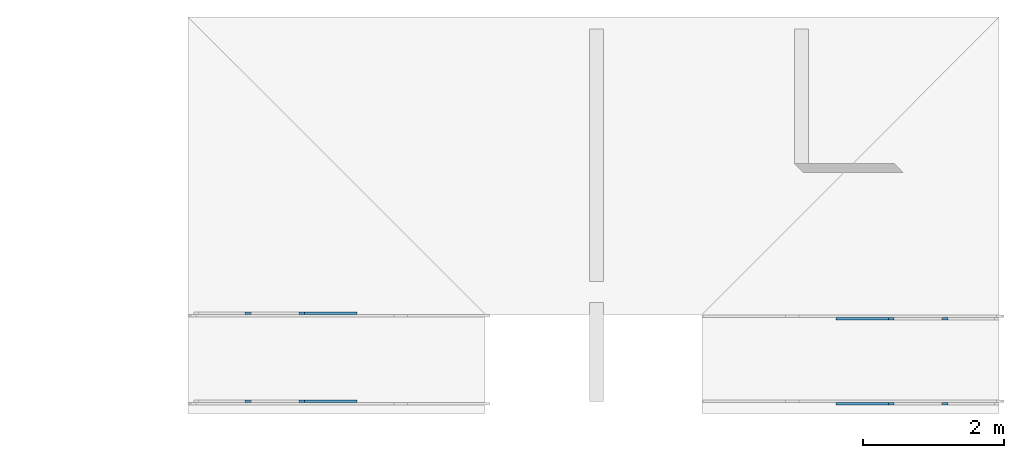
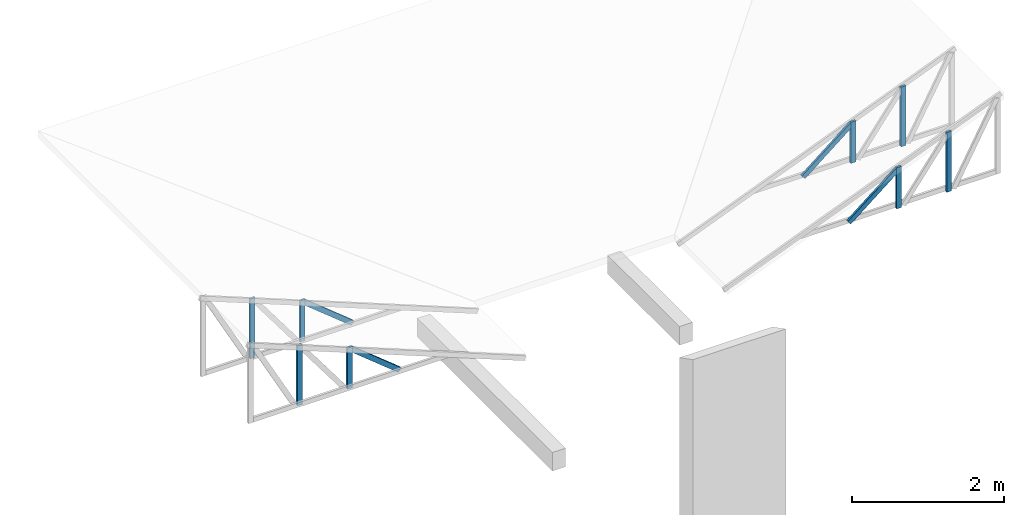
# One storey, part 3 of 4: 12 members, 4 elements without a shape of their own.
"""IFC4X3_ADD2 building model written with IfcOpenShell, lengths in millimetres."""

import ifcopenshell
import ifcopenshell.guid

model = None  # the IFC model being written
_history = None  # IfcOwnerHistory: only IFC2X3 demands one
_inside = {}  # id of a spatial element -> (the spatial element, [elements in it])
_under = {}  # id of a project, library or spatial element -> (it, [spatial elements below it])
_declared = {}  # id of a project -> (the project, [libraries it declares])
_typed = {}  # id of a type object -> (the type object, [elements of that type])
_made_of = {}  # id of a material, layer set ... -> (it, [elements and type objects made of it])


def new_model(schema):
    """Start an empty IFC model of exactly this schema.

    Asked for "IFC4X3", IfcOpenShell would pick the latest addendum, in which some entities
    have other attributes; the version numbers below select the first issue.
    IFC2X3 requires an IfcOwnerHistory on every rooted entity: one is made here for all.
    """
    global model, _history
    if schema == "IFC4X3":
        model = ifcopenshell.file(schema_version=(4, 3, 0, 0))
    else:
        model = ifcopenshell.file(schema=schema)
    _inside.clear()
    _under.clear()
    _declared.clear()
    _typed.clear()
    _made_of.clear()
    _history = None
    if model.schema == "IFC2X3":
        org = make("IfcOrganization", Name="unknown")
        user = make(
            "IfcPersonAndOrganization",
            ThePerson=make("IfcPerson", FamilyName="unknown"),
            TheOrganization=org,
        )
        app = make(
            "IfcApplication",
            ApplicationDeveloper=org,
            Version="unknown",
            ApplicationFullName="unknown",
            ApplicationIdentifier="unknown",
        )
        _history = make(
            "IfcOwnerHistory",
            OwningUser=user,
            OwningApplication=app,
            ChangeAction="ADDED",
            CreationDate=0,
        )
    return model


def make(cls, **values):
    """One entity of the class cls with the attributes given. An attribute that is None is left unset."""
    return model.create_entity(
        cls, **{name: value for name, value in values.items() if value is not None}
    )


def entity(cls, *values):
    """Any entity or typed value of the class cls, its attributes in the order of the schema. None: left unset."""
    e = model.create_entity(cls)
    for i, value in enumerate(values):
        if value is not None:
            e[i] = value
    return e


def rooted(cls, **values):
    """An entity with a GlobalId (a new one), such as an element, a storey or a relation."""
    return make(cls, GlobalId=ifcopenshell.guid.new(), OwnerHistory=_history, **values)


def si_unit(unit_type, name, prefix=None):
    """IfcSIUnit, for example si_unit("LENGTHUNIT", "METRE", prefix="MILLI")."""
    return make("IfcSIUnit", UnitType=unit_type, Prefix=prefix, Name=name)


def converted_unit(unit_type, name, factor, base, dimensions=None, offset=None):
    """IfcConversionBasedUnit, such as the inch: factor (a typed value) times the base unit."""
    return make(
        "IfcConversionBasedUnit"
        if offset is None
        else "IfcConversionBasedUnitWithOffset",
        ConversionOffset=offset,
        Dimensions=None
        if dimensions is None
        else entity("IfcDimensionalExponents", *dimensions),
        UnitType=unit_type,
        Name=name,
        ConversionFactor=make(
            "IfcMeasureWithUnit", ValueComponent=factor, UnitComponent=base
        ),
    )


def assignment(units):
    """IfcUnitAssignment: the units of a project."""
    return None if units is None else make("IfcUnitAssignment", Units=units)


def point(xyz):
    """IfcCartesianPoint."""
    return None if xyz is None else make("IfcCartesianPoint", Coordinates=xyz)


def direction(xyz):
    """IfcDirection."""
    return None if xyz is None else make("IfcDirection", DirectionRatios=xyz)


def frame(location, z_axis=None, x_axis=None):
    """IfcAxis2Placement3D, a coordinate frame: its origin and axes. An axis left out is left unset."""
    return make(
        "IfcAxis2Placement3D",
        Location=point(location),
        Axis=direction(z_axis),
        RefDirection=direction(x_axis),
    )


def frame_2d(location, x_axis=None):
    """IfcAxis2Placement2D, a coordinate frame in the plane: its origin and x axis."""
    return make(
        "IfcAxis2Placement2D", Location=point(location), RefDirection=direction(x_axis)
    )


def origin_with_axes():
    """The frame at (0, 0, 0) with the z axis (0, 0, 1) and the x axis (1, 0, 0) written out."""
    return frame((0.0, 0.0, 0.0), z_axis=(0.0, 0.0, 1.0), x_axis=(1.0, 0.0, 0.0))


def origin_2d_with_axis():
    """The frame at (0, 0) in the plane with the x axis (1, 0) written out."""
    return frame_2d((0.0, 0.0), x_axis=(1.0, 0.0))


def place(relative_to, where):
    """IfcLocalPlacement: puts the frame where relative to a parent placement (None: the world)."""
    return make(
        "IfcLocalPlacement", PlacementRelTo=relative_to, RelativePlacement=where
    )


def context(
    kind, dimensions, precision=None, world=None, true_north=None, identifier=None
):
    """IfcGeometricRepresentationContext, for example the 3D "Model" context."""
    return make(
        "IfcGeometricRepresentationContext",
        ContextIdentifier=identifier,
        ContextType=kind,
        CoordinateSpaceDimension=dimensions,
        Precision=precision,
        WorldCoordinateSystem=world,
        TrueNorth=true_north,
    )


def subcontext(parent, identifier, kind, view, scale=None):
    """IfcGeometricRepresentationSubContext, for example "Body" below "Model"."""
    return make(
        "IfcGeometricRepresentationSubContext",
        ContextIdentifier=identifier,
        ContextType=kind,
        ParentContext=parent,
        TargetScale=scale,
        TargetView=view,
    )


def project(units=None, contexts=None):
    """IfcProject with its units and contexts."""
    return rooted(
        "IfcProject",
        Name="project",
        RepresentationContexts=contexts,
        UnitsInContext=assignment(units),
    )


def spatial(cls, under=None, at=None, **own):
    """A site, building, storey or space (cls), placed at a placement, below another one or the project."""
    s = rooted(cls, ObjectPlacement=at, **own)
    if under is not None:
        _under.setdefault(under.id(), (under, []))[1].append(s)
    return s


def profile(cls, at=None, kind="AREA", **sizes):
    """A parametric profile (cls). Its sizes go by their IFC names, for example OverallWidth=200.0."""
    return make(cls, ProfileType=kind, Position=at, **sizes)


def rectangle(**sizes):
    """IfcRectangleProfileDef."""
    return profile("IfcRectangleProfileDef", **sizes)


def extrude(swept, where, along, depth):
    """IfcExtrudedAreaSolid: the profile swept, set in the frame where, extruded along a direction by depth."""
    return make(
        "IfcExtrudedAreaSolid",
        SweptArea=swept,
        Position=where,
        ExtrudedDirection=direction(along),
        Depth=depth,
    )


def clip(a, b, op="DIFFERENCE"):
    """IfcBooleanClippingResult: the solid a cut by the half space b."""
    return make(
        "IfcBooleanClippingResult", Operator=op, FirstOperand=a, SecondOperand=b
    )


def halfspace(plane, agree):
    """IfcHalfSpaceSolid: all space on one side of the plane z = 0 of the frame plane."""
    return make(
        "IfcHalfSpaceSolid",
        BaseSurface=make("IfcPlane", Position=plane),
        AgreementFlag=agree,
    )


def shape(context_of_items, identifier, shape_type, items):
    """IfcShapeRepresentation: the items that make up one representation, for example the "Body"."""
    return make(
        "IfcShapeRepresentation",
        ContextOfItems=context_of_items,
        RepresentationIdentifier=identifier,
        RepresentationType=shape_type,
        Items=items,
    )


def material(Name=None, Category=None):
    """IfcMaterial."""
    return make("IfcMaterial", Name=Name, Category=Category)


def material_profile(
    of_material, cross_section, Name=None, Category=None, Priority=None
):
    """IfcMaterialProfile: a cross section and its material."""
    return make(
        "IfcMaterialProfile",
        Name=Name,
        Material=of_material,
        Profile=cross_section,
        Priority=Priority,
        Category=Category,
    )


def profile_set(profiles, Name=None, composite=None):
    """IfcMaterialProfileSet."""
    return make(
        "IfcMaterialProfileSet",
        Name=Name,
        MaterialProfiles=profiles,
        CompositeProfile=composite,
    )


def profile_usage(for_profile_set, cardinal=None, extent=None):
    """IfcMaterialProfileSetUsage: how a profile set lies along its element."""
    return make(
        "IfcMaterialProfileSetUsage",
        ForProfileSet=for_profile_set,
        CardinalPoint=cardinal,
        ReferenceExtent=extent,
    )


def made_of(thing, what):
    """Note that an element or type object is made of a material, layer set ...; save() writes the relation."""
    if what is not None:
        _made_of.setdefault(what.id(), (what, []))[1].append(thing)
    return thing


def type_object(cls, material=None, **own):
    """A type object (cls), such as IfcWallType, which elements share."""
    return made_of(rooted(cls, **own), material)


def element(
    cls,
    number,
    at=None,
    inside=None,
    cuts=None,
    type_object=None,
    material=None,
    context=None,
    identifier="Body",
    shape_type=None,
    held_by="IfcProductDefinitionShape",
    body=None,
    shapes=None,
    **own,
):
    """One element of the class cls, such as IfcWall. Its Tag is "e" and its number.

    at: its placement. inside: the storey or other place that contains it. cuts: it is an
    opening in that element (IfcRelVoidsElement). A single representation is given by context,
    identifier, shape_type and body (its items); several are given by shapes. held_by: the class
    of the entity that holds the representations. save() writes the other relations.
    """
    e = rooted(cls, Tag="e%d" % number, ObjectPlacement=at, **own)
    if body is not None:
        shapes = [shape(context, identifier, shape_type, body)]
    if shapes is not None:
        e.Representation = make(held_by, Representations=shapes)
    if inside is not None:
        _inside.setdefault(inside.id(), (inside, []))[1].append(e)
    if cuts is not None:
        rooted(
            "IfcRelVoidsElement", RelatingBuildingElement=cuts, RelatedOpeningElement=e
        )
    if type_object is not None:
        _typed.setdefault(type_object.id(), (type_object, []))[1].append(e)
    return made_of(e, material)


def aggregate(whole, parts):
    """IfcRelAggregates: a whole, such as a stair, and the parts it consists of."""
    return rooted("IfcRelAggregates", RelatingObject=whole, RelatedObjects=parts)


def save(model, path):
    """Write the relations noted so far, then the file.

    IfcRelAggregates (storeys below a building ...), IfcRelContainedInSpatialStructure (elements
    in a storey), IfcRelDefinesByType, IfcRelAssociatesMaterial and IfcRelDeclares: one each for
    every whole, place, type object, material and project.
    """
    for whole, parts in _under.values():
        aggregate(whole, parts)
    for where, things in _inside.values():
        rooted(
            "IfcRelContainedInSpatialStructure",
            RelatedElements=things,
            RelatingStructure=where,
        )
    for kind, things in _typed.values():
        rooted("IfcRelDefinesByType", RelatedObjects=things, RelatingType=kind)
    for what, things in _made_of.values():
        rooted("IfcRelAssociatesMaterial", RelatedObjects=things, RelatingMaterial=what)
    for by, libraries in _declared.values():
        rooted("IfcRelDeclares", RelatingContext=by, RelatedDefinitions=libraries)
    model.write(path)


model = new_model("IFC4X3_ADD2")

# Units and contexts
model_context = context("Model", 3, precision=1e-05, world=origin_with_axes())
plan_context = context("Plan", 2, precision=1e-05, world=origin_2d_with_axis())
body_context = subcontext(model_context, "Body", "Model", "MODEL_VIEW")
ifc_project = project(units=[si_unit("VOLUMEUNIT", "CUBIC_METRE"), si_unit("LENGTHUNIT", "METRE", prefix="MILLI"), converted_unit("PLANEANGLEUNIT", "degree", entity("IfcReal", 0.0174532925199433), si_unit("PLANEANGLEUNIT", "RADIAN"), dimensions=[0, 0, 0, 0, 0, 0, 0]), si_unit("AREAUNIT", "SQUARE_METRE")], contexts=[model_context, plan_context])

# Site, building, storey
site_placement = place(None, origin_with_axes())
site = spatial("IfcSite", under=ifc_project, at=site_placement, Name="My Site")
building_placement = place(site_placement, origin_with_axes())
building = spatial("IfcBuilding", under=site, at=building_placement, Name="My Building")
storey_placement = place(building_placement, origin_with_axes())
storey = spatial("IfcBuildingStorey", under=building, at=storey_placement, Name="Riang Blok")

# Assembly, members
assembly_1_placement = place(storey_placement, frame((11460.0009918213, 135.63671708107, 6999.99952316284), z_axis=(0.0, 0.0, 1.0), x_axis=(-0.999999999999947, 3.25841369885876e-07, 0.0)))
assembly_1 = element("IfcElementAssembly", 1, at=assembly_1_placement, inside=storey, Name="KUDA KUDA_1")
ifc_material = material(Name="Galvanis")
ifc_material_profile = material_profile(ifc_material, rectangle(XDim=35.0, YDim=75.0))
ifc_profile_set = profile_set([ifc_material_profile])
ifc_profile_usage_1 = profile_usage(ifc_profile_set, cardinal=8)
member_type = type_object("IfcMemberType", Name="C75", PredefinedType="MEMBER", material=ifc_profile_set)
member_1_placement = place(assembly_1_placement, frame((766.063684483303, 17.5001807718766, 961.923599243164), z_axis=(8.74228181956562e-08, -3.89414367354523e-07, -0.999999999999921), x_axis=(1.62920684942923e-07, -0.999999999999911, 3.8941436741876e-07)))
member_1 = element("IfcMember", 2, at=member_1_placement, type_object=member_type, material=ifc_profile_usage_1, Name="Member", context=body_context, shape_type="SweptSolid", body=[
    extrude(rectangle(XDim=35.0, YDim=75.0), frame((0.0, -37.5, 0.0), z_axis=(0.0, 0.0, 1.0), x_axis=(1.0, 0.0, 0.0)), (0.0, 0.0, 1.0), 961.923109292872),
])
ifc_profile_usage_2 = profile_usage(ifc_profile_set, cardinal=8)
member_2_placement = place(assembly_1_placement, frame((1529.02602579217, 17.4994757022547, 662.717819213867), z_axis=(8.74228181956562e-08, -3.89414367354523e-07, -0.999999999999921), x_axis=(1.62920684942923e-07, -0.999999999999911, 3.8941436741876e-07)))
member_2 = element("IfcMember", 3, at=member_2_placement, type_object=member_type, material=ifc_profile_usage_2, Name="Member", context=body_context, shape_type="SweptSolid", body=[
    extrude(rectangle(XDim=35.0, YDim=75.0), frame((0.0, -37.5, 0.0), z_axis=(0.0, 0.0, 1.0), x_axis=(1.0, 0.0, 0.0)), (0.0, 0.0, 1.0), 662.716859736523),
])
ifc_profile_usage_3 = profile_usage(ifc_profile_set, cardinal=8)
member_3_placement = place(assembly_1_placement, frame((2304.0256443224, 17.499728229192, 0.0), z_axis=(-0.777644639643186, 2.01680577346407e-07, 0.628704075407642), x_axis=(3.13916473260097e-07, 0.999999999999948, 6.74958116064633e-08)))
member_3 = element("IfcMember", 4, at=member_3_placement, type_object=member_type, material=ifc_profile_usage_3, Name="Member", context=body_context, shape_type="Clipping", body=[
    clip(extrude(rectangle(XDim=35.0, YDim=75.0), frame((0.0, -37.5, 0.0), z_axis=(0.0, 0.0, 1.0), x_axis=(1.0, 0.0, 0.0)), (0.0, 0.0, 1.0), 975.153600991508), halfspace(frame((-0.000416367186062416, -75.2663537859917, 961.00515127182), z_axis=(-4.90746174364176e-07, 0.628704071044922, 0.777644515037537), x_axis=(0.999999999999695, 7.80567833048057e-07, 0.0)), False)),
])
aggregate(assembly_1, [member_1, member_2, member_3])

assembly_2_placement = place(storey_placement, frame((-19.9997760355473, 135.000050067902, 6997.18856811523), z_axis=(0.0, 0.0, 1.0), x_axis=(1.0, 0.0, 0.0)))
assembly_2 = element("IfcElementAssembly", 5, at=assembly_2_placement, inside=storey, Name="KUDA KUDA_0")
ifc_profile_usage_4 = profile_usage(ifc_profile_set, cardinal=8)
member_4_placement = place(assembly_2_placement, frame((1529.02594581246, 17.4994766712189, 662.717819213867), z_axis=(1.50995873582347e-07, -3.89414338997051e-07, -0.999999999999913), x_axis=(1.94707183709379e-07, -0.999999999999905, 3.89414367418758e-07)))
member_4 = element("IfcMember", 6, at=member_4_placement, type_object=member_type, material=ifc_profile_usage_4, Name="Member", context=body_context, shape_type="SweptSolid", body=[
    extrude(rectangle(XDim=35.0, YDim=75.0), frame((0.0, -37.5, 0.0), z_axis=(0.0, 0.0, 1.0), x_axis=(1.0, 0.0, 0.0)), (0.0, 0.0, 1.0), 662.716859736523),
])
ifc_profile_usage_5 = profile_usage(ifc_profile_set, cardinal=8)
member_5_placement = place(assembly_2_placement, frame((766.06372371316, 17.5001919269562, 961.923599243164), z_axis=(1.50995873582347e-07, -3.89414338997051e-07, -0.999999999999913), x_axis=(1.94707183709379e-07, -0.999999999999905, 3.89414367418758e-07)))
member_5 = element("IfcMember", 7, at=member_5_placement, type_object=member_type, material=ifc_profile_usage_5, Name="Member.004", context=body_context, shape_type="SweptSolid", body=[
    extrude(rectangle(XDim=35.0, YDim=75.0), frame((0.0, -37.5, 0.0), z_axis=(0.0, 0.0, 1.0), x_axis=(1.0, 0.0, 0.0)), (0.0, 0.0, 1.0), 961.923109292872),
])
ifc_profile_usage_6 = profile_usage(ifc_profile_set, cardinal=8)
member_6_placement = place(assembly_2_placement, frame((2304.02568355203, 17.4997299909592, 0.0), z_axis=(-0.777644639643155, 1.06822377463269e-07, 0.628704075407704), x_axis=(1.94707183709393e-07, 0.999999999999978, 7.09246563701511e-08)))
member_6 = element("IfcMember", 8, at=member_6_placement, type_object=member_type, material=ifc_profile_usage_6, Name="Member.006", context=body_context, shape_type="Clipping", body=[
    clip(extrude(rectangle(XDim=35.0, YDim=75.0), frame((0.0, -37.5, 0.0), z_axis=(0.0, 0.0, 1.0), x_axis=(1.0, 0.0, 0.0)), (0.0, 0.0, 1.0), 975.153600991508), halfspace(frame((-0.000416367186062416, -75.2663537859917, 961.00515127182), z_axis=(-4.90746174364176e-07, 0.628704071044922, 0.777644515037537), x_axis=(0.999999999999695, 7.80567833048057e-07, 0.0)), False)),
])
aggregate(assembly_2, [member_4, member_5, member_6])

assembly_3_placement = place(storey_placement, frame((-19.7176039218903, 1382.21764564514, 6997.0760345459), z_axis=(0.0, 0.0, 1.0), x_axis=(1.0, 0.0, 0.0)))
assembly_3 = element("IfcElementAssembly", 9, at=assembly_3_placement, inside=storey, Name="KUDA KUDA_2")
ifc_profile_usage_7 = profile_usage(ifc_profile_set, cardinal=8)
member_7_placement = place(assembly_3_placement, frame((1529.02594208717, 17.4994468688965, 662.717819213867), z_axis=(1.50995873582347e-07, -3.89414338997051e-07, -0.999999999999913), x_axis=(1.94707183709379e-07, -0.999999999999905, 3.89414367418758e-07)))
member_7 = element("IfcMember", 10, at=member_7_placement, type_object=member_type, material=ifc_profile_usage_7, Name="Member.115", context=body_context, shape_type="SweptSolid", body=[
    extrude(rectangle(XDim=35.0, YDim=75.0), frame((0.0, -37.5, 0.0), z_axis=(0.0, 0.0, 1.0), x_axis=(1.0, 0.0, 0.0)), (0.0, 0.0, 1.0), 662.716859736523),
])
ifc_profile_usage_8 = profile_usage(ifc_profile_set, cardinal=8)
member_8_placement = place(assembly_3_placement, frame((766.063719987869, 17.5001621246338, 961.923599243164), z_axis=(1.50995873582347e-07, -3.89414338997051e-07, -0.999999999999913), x_axis=(1.94707183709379e-07, -0.999999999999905, 3.89414367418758e-07)))
member_8 = element("IfcMember", 11, at=member_8_placement, type_object=member_type, material=ifc_profile_usage_8, Name="Member.116", context=body_context, shape_type="SweptSolid", body=[
    extrude(rectangle(XDim=35.0, YDim=75.0), frame((0.0, -37.5, 0.0), z_axis=(0.0, 0.0, 1.0), x_axis=(1.0, 0.0, 0.0)), (0.0, 0.0, 1.0), 961.923109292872),
])
ifc_profile_usage_9 = profile_usage(ifc_profile_set, cardinal=8)
member_9_placement = place(assembly_3_placement, frame((2304.02556061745, 17.4996852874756, 0.0), z_axis=(-0.777644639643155, 1.06822377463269e-07, 0.628704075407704), x_axis=(1.94707183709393e-07, 0.999999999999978, 7.09246563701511e-08)))
member_9 = element("IfcMember", 12, at=member_9_placement, type_object=member_type, material=ifc_profile_usage_9, Name="Member.118", context=body_context, shape_type="Clipping", body=[
    clip(extrude(rectangle(XDim=35.0, YDim=75.0), frame((0.0, -37.5, 0.0), z_axis=(0.0, 0.0, 1.0), x_axis=(1.0, 0.0, 0.0)), (0.0, 0.0, 1.0), 975.153600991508), halfspace(frame((-0.000416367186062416, -75.2663537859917, 961.00515127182), z_axis=(-4.90746174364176e-07, 0.628704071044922, 0.777644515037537), x_axis=(0.999999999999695, 7.80567833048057e-07, 0.0)), False)),
])
aggregate(assembly_3, [member_7, member_8, member_9])

assembly_4_placement = place(storey_placement, frame((11459.9990844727, 1342.49949455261, 6999.99952316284), z_axis=(0.0, 0.0, 1.0), x_axis=(-0.999999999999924, -3.89414367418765e-07, 0.0)))
assembly_4 = element("IfcElementAssembly", 13, at=assembly_4_placement, inside=storey, Name="KUDA KUDA_3")
ifc_profile_usage_10 = profile_usage(ifc_profile_set, cardinal=8)
member_10_placement = place(assembly_4_placement, frame((1529.02603830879, 17.4994474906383, 662.717819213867), z_axis=(8.74228238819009e-08, -3.89414344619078e-07, -0.999999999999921), x_axis=(2.82129974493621e-07, -0.999999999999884, 3.89414367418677e-07)))
member_10 = element("IfcMember", 14, at=member_10_placement, type_object=member_type, material=ifc_profile_usage_10, Name="Member.176", context=body_context, shape_type="SweptSolid", body=[
    extrude(rectangle(XDim=35.0, YDim=75.0), frame((0.0, -37.5, 0.0), z_axis=(0.0, 0.0, 1.0), x_axis=(1.0, 0.0, 0.0)), (0.0, 0.0, 1.0), 662.716859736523),
])
ifc_profile_usage_11 = profile_usage(ifc_profile_set, cardinal=8)
member_11_placement = place(assembly_4_placement, frame((766.063697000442, 17.5002214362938, 961.923599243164), z_axis=(8.74228238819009e-08, -3.89414344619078e-07, -0.999999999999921), x_axis=(2.82129974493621e-07, -0.999999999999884, 3.89414367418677e-07)))
member_11 = element("IfcMember", 15, at=member_11_placement, type_object=member_type, material=ifc_profile_usage_11, Name="Member.153", context=body_context, shape_type="SweptSolid", body=[
    extrude(rectangle(XDim=35.0, YDim=75.0), frame((0.0, -37.5, 0.0), z_axis=(0.0, 0.0, 1.0), x_axis=(1.0, 0.0, 0.0)), (0.0, 0.0, 1.0), 961.923109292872),
])
ifc_profile_usage_12 = profile_usage(ifc_profile_set, cardinal=8)
member_12_placement = place(assembly_4_placement, frame((2304.02565683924, 17.4997417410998, 0.0), z_axis=(-0.777644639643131, 2.19125517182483e-07, 0.628704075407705), x_axis=(3.13916466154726e-07, 0.99999999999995, 3.97483326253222e-08)))
member_12 = element("IfcMember", 16, at=member_12_placement, type_object=member_type, material=ifc_profile_usage_12, Name="Member.178", context=body_context, shape_type="Clipping", body=[
    clip(extrude(rectangle(XDim=35.0, YDim=75.0), frame((0.0, -37.5, 0.0), z_axis=(0.0, 0.0, 1.0), x_axis=(1.0, 0.0, 0.0)), (0.0, 0.0, 1.0), 975.153600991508), halfspace(frame((-0.000416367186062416, -75.2663537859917, 961.00515127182), z_axis=(-4.90746174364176e-07, 0.628704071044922, 0.777644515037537), x_axis=(0.999999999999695, 7.80567833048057e-07, 0.0)), False)),
])
aggregate(assembly_4, [member_10, member_11, member_12])

save(model, "model.ifc")
